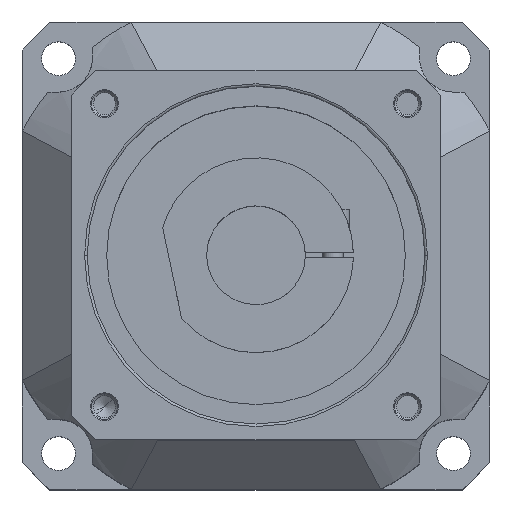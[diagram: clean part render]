
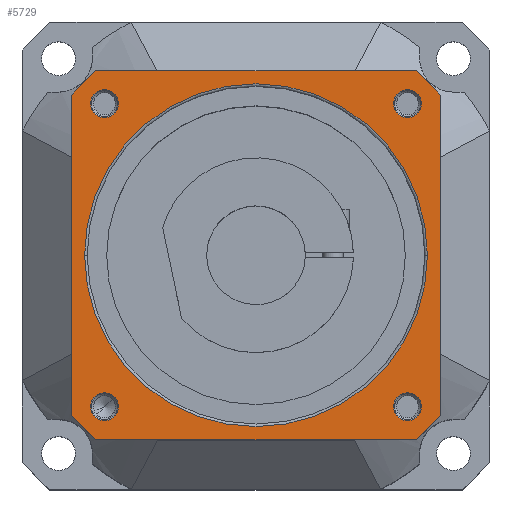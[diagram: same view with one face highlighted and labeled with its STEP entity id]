
A CAD part, top view. The second image highlights one B-rep face of the part: STEP entity #5729.
In plain terms, the highlighted planar face has unit normal (0, 0, 1) as drawn and (0, 1, 0) by its records, which use the part's own axes.
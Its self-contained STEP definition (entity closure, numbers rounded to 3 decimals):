
#4615=CARTESIAN_POINT('',(0.,71.,0.));
#4616=DIRECTION('',(0.,1.,0.));
#4617=DIRECTION('',(0.755,0.,-0.655));
#4618=AXIS2_PLACEMENT_3D('',#4615,#4616,#4617);
#4620=DIRECTION('',(0.,0.,-1.));
#4621=VECTOR('',#4620,123.207);
#4622=CARTESIAN_POINT('',(71.,71.,61.604));
#4623=LINE('',#4622,#4621);
#4624=CARTESIAN_POINT('',(0.,71.,0.));
#4625=DIRECTION('',(0.,1.,0.));
#4626=DIRECTION('',(0.655,0.,0.755));
#4627=AXIS2_PLACEMENT_3D('',#4624,#4625,#4626);
#4629=DIRECTION('',(1.,0.,0.));
#4630=VECTOR('',#4629,123.207);
#4631=CARTESIAN_POINT('',(-61.604,71.,71.));
#4632=LINE('',#4631,#4630);
#4633=CARTESIAN_POINT('',(0.,71.,0.));
#4634=DIRECTION('',(0.,1.,0.));
#4635=DIRECTION('',(-0.755,0.,0.655));
#4636=AXIS2_PLACEMENT_3D('',#4633,#4634,#4635);
#4638=DIRECTION('',(0.,0.,1.));
#4639=VECTOR('',#4638,123.207);
#4640=CARTESIAN_POINT('',(-71.,71.,-61.604));
#4641=LINE('',#4640,#4639);
#4642=CARTESIAN_POINT('',(0.,71.,0.));
#4643=DIRECTION('',(0.,1.,0.));
#4644=DIRECTION('',(-0.655,0.,-0.755));
#4645=AXIS2_PLACEMENT_3D('',#4642,#4643,#4644);
#4647=DIRECTION('',(-1.,0.,0.));
#4648=VECTOR('',#4647,123.207);
#4649=CARTESIAN_POINT('',(61.604,71.,-71.));
#4650=LINE('',#4649,#4648);
#4651=CARTESIAN_POINT('',(-58.336,71.,58.336));
#4652=DIRECTION('',(0.,-1.,0.));
#4653=DIRECTION('',(1.,0.,0.));
#4654=AXIS2_PLACEMENT_3D('',#4651,#4652,#4653);
#4661=CARTESIAN_POINT('',(-58.336,71.,58.336));
#4662=DIRECTION('',(0.,-1.,0.));
#4663=DIRECTION('',(-1.,0.,0.));
#4664=AXIS2_PLACEMENT_3D('',#4661,#4662,#4663);
#4697=CARTESIAN_POINT('',(-58.336,71.,-58.336));
#4698=DIRECTION('',(0.,-1.,0.));
#4699=DIRECTION('',(1.,0.,0.));
#4700=AXIS2_PLACEMENT_3D('',#4697,#4698,#4699);
#4707=CARTESIAN_POINT('',(-58.336,71.,-58.336));
#4708=DIRECTION('',(0.,-1.,0.));
#4709=DIRECTION('',(-1.,0.,0.));
#4710=AXIS2_PLACEMENT_3D('',#4707,#4708,#4709);
#4743=CARTESIAN_POINT('',(58.336,71.,-58.336));
#4744=DIRECTION('',(0.,-1.,0.));
#4745=DIRECTION('',(1.,0.,0.));
#4746=AXIS2_PLACEMENT_3D('',#4743,#4744,#4745);
#4753=CARTESIAN_POINT('',(58.336,71.,-58.336));
#4754=DIRECTION('',(0.,-1.,0.));
#4755=DIRECTION('',(-1.,0.,0.));
#4756=AXIS2_PLACEMENT_3D('',#4753,#4754,#4755);
#5111=CARTESIAN_POINT('',(58.336,71.,58.336));
#5112=DIRECTION('',(0.,-1.,0.));
#5113=DIRECTION('',(1.,0.,0.));
#5114=AXIS2_PLACEMENT_3D('',#5111,#5112,#5113);
#5121=CARTESIAN_POINT('',(58.336,71.,58.336));
#5122=DIRECTION('',(0.,-1.,0.));
#5123=DIRECTION('',(-1.,0.,0.));
#5124=AXIS2_PLACEMENT_3D('',#5121,#5122,#5123);
#5175=CARTESIAN_POINT('',(0.,71.,0.));
#5176=DIRECTION('',(0.,-1.,0.));
#5177=DIRECTION('',(0.,0.,1.));
#5178=AXIS2_PLACEMENT_3D('',#5175,#5176,#5177);
#5190=CARTESIAN_POINT('',(0.,71.,0.));
#5191=DIRECTION('',(0.,-1.,0.));
#5192=DIRECTION('',(0.,0.,-1.));
#5193=AXIS2_PLACEMENT_3D('',#5190,#5191,#5192);
#5345=CARTESIAN_POINT('',(71.,71.,-61.604));
#5346=CARTESIAN_POINT('',(61.604,71.,-71.));
#5347=VERTEX_POINT('',#5345);
#5348=VERTEX_POINT('',#5346);
#5349=CARTESIAN_POINT('',(-61.604,71.,-71.));
#5350=CARTESIAN_POINT('',(-71.,71.,-61.604));
#5351=VERTEX_POINT('',#5349);
#5352=VERTEX_POINT('',#5350);
#5353=CARTESIAN_POINT('',(-71.,71.,61.604));
#5354=CARTESIAN_POINT('',(-61.604,71.,71.));
#5355=VERTEX_POINT('',#5353);
#5356=VERTEX_POINT('',#5354);
#5357=CARTESIAN_POINT('',(61.604,71.,71.));
#5358=CARTESIAN_POINT('',(71.,71.,61.604));
#5359=VERTEX_POINT('',#5357);
#5360=VERTEX_POINT('',#5358);
#5403=CARTESIAN_POINT('',(63.686,71.,58.336));
#5404=CARTESIAN_POINT('',(52.986,71.,58.336));
#5405=VERTEX_POINT('',#5403);
#5406=VERTEX_POINT('',#5404);
#5411=CARTESIAN_POINT('',(-52.986,71.,58.336));
#5412=CARTESIAN_POINT('',(-63.686,71.,58.336));
#5413=VERTEX_POINT('',#5411);
#5414=VERTEX_POINT('',#5412);
#5419=CARTESIAN_POINT('',(-52.986,71.,-58.336));
#5420=CARTESIAN_POINT('',(-63.686,71.,-58.336));
#5421=VERTEX_POINT('',#5419);
#5422=VERTEX_POINT('',#5420);
#5427=CARTESIAN_POINT('',(63.686,71.,-58.336));
#5428=CARTESIAN_POINT('',(52.986,71.,-58.336));
#5429=VERTEX_POINT('',#5427);
#5430=VERTEX_POINT('',#5428);
#5467=CARTESIAN_POINT('',(0.,71.,66.));
#5468=CARTESIAN_POINT('',(0.,71.,-66.));
#5469=VERTEX_POINT('',#5467);
#5470=VERTEX_POINT('',#5468);
#5679=CARTESIAN_POINT('',(0.,71.,0.));
#5680=DIRECTION('',(0.,-1.,0.));
#5681=DIRECTION('',(-1.,0.,0.));
#5682=AXIS2_PLACEMENT_3D('',#5679,#5680,#5681);
#5683=PLANE('',#5682);
#5684=ORIENTED_EDGE('',*,*,#5641,.F.);
#5686=ORIENTED_EDGE('',*,*,#5685,.F.);
#5688=ORIENTED_EDGE('',*,*,#5687,.F.);
#5690=ORIENTED_EDGE('',*,*,#5689,.F.);
#5692=ORIENTED_EDGE('',*,*,#5691,.F.);
#5694=ORIENTED_EDGE('',*,*,#5693,.F.);
#5695=ORIENTED_EDGE('',*,*,#5656,.F.);
#5696=ORIENTED_EDGE('',*,*,#5666,.F.);
#5697=EDGE_LOOP('',(#5684,#5686,#5688,#5690,#5692,#5694,#5695,#5696));
#5698=FACE_OUTER_BOUND('',#5697,.F.);
#5700=ORIENTED_EDGE('',*,*,#5699,.F.);
#5702=ORIENTED_EDGE('',*,*,#5701,.F.);
#5703=EDGE_LOOP('',(#5700,#5702));
#5704=FACE_BOUND('',#5703,.F.);
#5706=ORIENTED_EDGE('',*,*,#5705,.F.);
#5708=ORIENTED_EDGE('',*,*,#5707,.F.);
#5709=EDGE_LOOP('',(#5706,#5708));
#5710=FACE_BOUND('',#5709,.F.);
#5712=ORIENTED_EDGE('',*,*,#5711,.F.);
#5714=ORIENTED_EDGE('',*,*,#5713,.F.);
#5715=EDGE_LOOP('',(#5712,#5714));
#5716=FACE_BOUND('',#5715,.F.);
#5718=ORIENTED_EDGE('',*,*,#5717,.F.);
#5720=ORIENTED_EDGE('',*,*,#5719,.F.);
#5721=EDGE_LOOP('',(#5718,#5720));
#5722=FACE_BOUND('',#5721,.F.);
#5724=ORIENTED_EDGE('',*,*,#5723,.F.);
#5726=ORIENTED_EDGE('',*,*,#5725,.F.);
#5727=EDGE_LOOP('',(#5724,#5726));
#5728=FACE_BOUND('',#5727,.F.);
#5729=ADVANCED_FACE('',(#5698,#5704,#5710,#5716,#5722,#5728),#5683,.F.);
#4619=CIRCLE('',#4618,94.);
#4628=CIRCLE('',#4627,94.);
#4637=CIRCLE('',#4636,94.);
#4646=CIRCLE('',#4645,94.);
#4655=CIRCLE('',#4654,5.35);
#4665=CIRCLE('',#4664,5.35);
#4701=CIRCLE('',#4700,5.35);
#4711=CIRCLE('',#4710,5.35);
#4747=CIRCLE('',#4746,5.35);
#4757=CIRCLE('',#4756,5.35);
#5115=CIRCLE('',#5114,5.35);
#5125=CIRCLE('',#5124,5.35);
#5179=CIRCLE('',#5178,66.);
#5194=CIRCLE('',#5193,66.);
#5641=EDGE_CURVE('',#5347,#5348,#4619,.T.);
#5656=EDGE_CURVE('',#5351,#5352,#4646,.T.);
#5666=EDGE_CURVE('',#5348,#5351,#4650,.T.);
#5685=EDGE_CURVE('',#5360,#5347,#4623,.T.);
#5687=EDGE_CURVE('',#5359,#5360,#4628,.T.);
#5689=EDGE_CURVE('',#5356,#5359,#4632,.T.);
#5691=EDGE_CURVE('',#5355,#5356,#4637,.T.);
#5693=EDGE_CURVE('',#5352,#5355,#4641,.T.);
#5699=EDGE_CURVE('',#5413,#5414,#4655,.T.);
#5701=EDGE_CURVE('',#5414,#5413,#4665,.T.);
#5705=EDGE_CURVE('',#5421,#5422,#4701,.T.);
#5707=EDGE_CURVE('',#5422,#5421,#4711,.T.);
#5711=EDGE_CURVE('',#5429,#5430,#4747,.T.);
#5713=EDGE_CURVE('',#5430,#5429,#4757,.T.);
#5717=EDGE_CURVE('',#5405,#5406,#5115,.T.);
#5719=EDGE_CURVE('',#5406,#5405,#5125,.T.);
#5723=EDGE_CURVE('',#5469,#5470,#5179,.T.);
#5725=EDGE_CURVE('',#5470,#5469,#5194,.T.);
